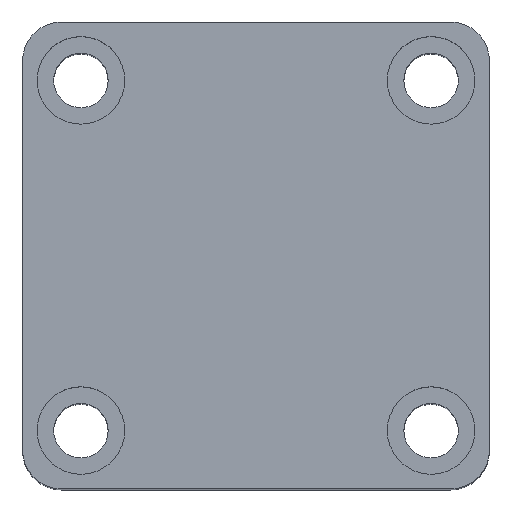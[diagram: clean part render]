
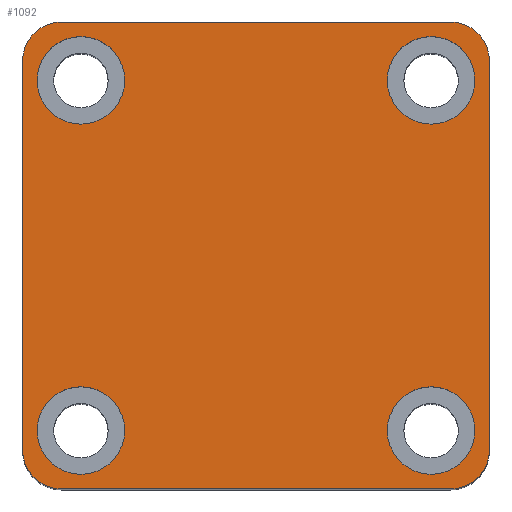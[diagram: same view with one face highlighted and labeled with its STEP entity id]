
A CAD part, top view. The second image highlights one B-rep face of the part: STEP entity #1092.
In plain terms, the highlighted planar face has unit normal (0, 0, 1).
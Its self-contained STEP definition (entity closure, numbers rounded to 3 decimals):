
#24 = CIRCLE ( 'NONE', #937, 4. ) ;
#25 = CIRCLE ( 'NONE', #940, 4. ) ;
#27 = CIRCLE ( 'NONE', #941, 4. ) ;
#29 = CIRCLE ( 'NONE', #942, 4. ) ;
#30 = CIRCLE ( 'NONE', #943, 4.5 ) ;
#31 = CIRCLE ( 'NONE', #944, 4.5 ) ;
#34 = CIRCLE ( 'NONE', #947, 4.5 ) ;
#37 = CIRCLE ( 'NONE', #946, 4.5 ) ;
#40 = VECTOR ( 'NONE', #1325, 1000. ) ;
#43 = LINE ( 'NONE', #1327, #40 ) ;
#46 = VECTOR ( 'NONE', #1334, 1000. ) ;
#49 = LINE ( 'NONE', #1335, #46 ) ;
#50 = VECTOR ( 'NONE', #1347, 1000. ) ;
#56 = LINE ( 'NONE', #1343, #50 ) ;
#69 = VECTOR ( 'NONE', #1389, 1000. ) ;
#74 = LINE ( 'NONE', #1382, #69 ) ;
#419 = ORIENTED_EDGE ( 'NONE', *, *, #1042, .F. ) ;
#421 = ORIENTED_EDGE ( 'NONE', *, *, #2647, .F. ) ;
#423 = ORIENTED_EDGE ( 'NONE', *, *, #1043, .F. ) ;
#424 = ORIENTED_EDGE ( 'NONE', *, *, #2651, .F. ) ;
#425 = ORIENTED_EDGE ( 'NONE', *, *, #1045, .F. ) ;
#427 = ORIENTED_EDGE ( 'NONE', *, *, #2656, .F. ) ;
#428 = ORIENTED_EDGE ( 'NONE', *, *, #1046, .F. ) ;
#430 = ORIENTED_EDGE ( 'NONE', *, *, #2660, .F. ) ;
#432 = ORIENTED_EDGE ( 'NONE', *, *, #1032, .T. ) ;
#434 = ORIENTED_EDGE ( 'NONE', *, *, #1047, .T. ) ;
#436 = ORIENTED_EDGE ( 'NONE', *, *, #1034, .T. ) ;
#438 = ORIENTED_EDGE ( 'NONE', *, *, #1048, .T. ) ;
#440 = ORIENTED_EDGE ( 'NONE', *, *, #1037, .T. ) ;
#442 = ORIENTED_EDGE ( 'NONE', *, *, #1050, .T. ) ;
#444 = ORIENTED_EDGE ( 'NONE', *, *, #1020, .T. ) ;
#446 = ORIENTED_EDGE ( 'NONE', *, *, #1053, .T. ) ;
#535 = CIRCLE ( 'NONE', #1686, 4.5 ) ;
#539 = CIRCLE ( 'NONE', #1683, 4.5 ) ;
#565 = CIRCLE ( 'NONE', #1691, 4.5 ) ;
#584 = CIRCLE ( 'NONE', #1693, 4.5 ) ;
#666 = EDGE_LOOP ( 'NONE', ( #423, #424 ) ) ;
#668 = EDGE_LOOP ( 'NONE', ( #428, #430 ) ) ;
#669 = EDGE_LOOP ( 'NONE', ( #432, #434, #436, #438, #440, #442, #444, #446 ) ) ;
#672 = EDGE_LOOP ( 'NONE', ( #419, #421 ) ) ;
#673 = EDGE_LOOP ( 'NONE', ( #425, #427 ) ) ;
#774 = VERTEX_POINT ( 'NONE', #1443 ) ;
#796 = VERTEX_POINT ( 'NONE', #1332 ) ;
#798 = VERTEX_POINT ( 'NONE', #1326 ) ;
#810 = VERTEX_POINT ( 'NONE', #1284 ) ;
#819 = VERTEX_POINT ( 'NONE', #1258 ) ;
#820 = VERTEX_POINT ( 'NONE', #1269 ) ;
#821 = VERTEX_POINT ( 'NONE', #1256 ) ;
#834 = VERTEX_POINT ( 'NONE', #1211 ) ;
#839 = VERTEX_POINT ( 'NONE', #1201 ) ;
#856 = VERTEX_POINT ( 'NONE', #1158 ) ;
#868 = VERTEX_POINT ( 'NONE', #1548 ) ;
#869 = VERTEX_POINT ( 'NONE', #1547 ) ;
#870 = VERTEX_POINT ( 'NONE', #1546 ) ;
#872 = VERTEX_POINT ( 'NONE', #1544 ) ;
#878 = VERTEX_POINT ( 'NONE', #1538 ) ;
#881 = VERTEX_POINT ( 'NONE', #1535 ) ;
#937 = AXIS2_PLACEMENT_3D ( 'NONE', #1254, #1253, #1252 ) ;
#940 = AXIS2_PLACEMENT_3D ( 'NONE', #1268, #1267, #1266 ) ;
#941 = AXIS2_PLACEMENT_3D ( 'NONE', #1285, #1283, #1282 ) ;
#942 = AXIS2_PLACEMENT_3D ( 'NONE', #1291, #1290, #1289 ) ;
#943 = AXIS2_PLACEMENT_3D ( 'NONE', #1295, #1294, #1293 ) ;
#944 = AXIS2_PLACEMENT_3D ( 'NONE', #1299, #1298, #1297 ) ;
#946 = AXIS2_PLACEMENT_3D ( 'NONE', #1307, #1306, #1305 ) ;
#947 = AXIS2_PLACEMENT_3D ( 'NONE', #1312, #1311, #1309 ) ;
#1016 = AXIS2_PLACEMENT_3D ( 'NONE', #2427, #2383, #2413 ) ;
#1020 = EDGE_CURVE ( 'NONE', #881, #810, #74, .T. ) ;
#1032 = EDGE_CURVE ( 'NONE', #820, #819, #56, .T. ) ;
#1034 = EDGE_CURVE ( 'NONE', #868, #798, #49, .T. ) ;
#1037 = EDGE_CURVE ( 'NONE', #870, #839, #43, .T. ) ;
#1042 = EDGE_CURVE ( 'NONE', #872, #869, #34, .T. ) ;
#1043 = EDGE_CURVE ( 'NONE', #774, #821, #37, .T. ) ;
#1045 = EDGE_CURVE ( 'NONE', #878, #834, #31, .T. ) ;
#1046 = EDGE_CURVE ( 'NONE', #856, #796, #30, .T. ) ;
#1047 = EDGE_CURVE ( 'NONE', #819, #868, #29, .T. ) ;
#1048 = EDGE_CURVE ( 'NONE', #798, #870, #27, .T. ) ;
#1050 = EDGE_CURVE ( 'NONE', #839, #881, #25, .T. ) ;
#1053 = EDGE_CURVE ( 'NONE', #810, #820, #24, .T. ) ;
#1092 = ADVANCED_FACE ( 'NONE', ( #1980, #1969, #1973, #1970, #1977 ), #2414, .T. ) ;
#1158 = CARTESIAN_POINT ( 'NONE',  ( 22.5, -18., 65. ) ) ;
#1201 = CARTESIAN_POINT ( 'NONE',  ( 20., -24., 65. ) ) ;
#1211 = CARTESIAN_POINT ( 'NONE',  ( -22.5, -18., 65. ) ) ;
#1252 = DIRECTION ( 'NONE',  ( 1., 0., 0. ) ) ;
#1253 = DIRECTION ( 'NONE',  ( 0., 0., 1. ) ) ;
#1254 = CARTESIAN_POINT ( 'NONE',  ( 20., 20., 65. ) ) ;
#1256 = CARTESIAN_POINT ( 'NONE',  ( 13.5, 18., 65. ) ) ;
#1258 = CARTESIAN_POINT ( 'NONE',  ( -20., 24., 65. ) ) ;
#1266 = DIRECTION ( 'NONE',  ( 1., 0., 0. ) ) ;
#1267 = DIRECTION ( 'NONE',  ( 0., 0., 1. ) ) ;
#1268 = CARTESIAN_POINT ( 'NONE',  ( 20., -20., 65. ) ) ;
#1269 = CARTESIAN_POINT ( 'NONE',  ( 20., 24., 65. ) ) ;
#1282 = DIRECTION ( 'NONE',  ( 1., 0., 0. ) ) ;
#1283 = DIRECTION ( 'NONE',  ( 0., 0., 1. ) ) ;
#1284 = CARTESIAN_POINT ( 'NONE',  ( 24., 20., 65. ) ) ;
#1285 = CARTESIAN_POINT ( 'NONE',  ( -20., -20., 65. ) ) ;
#1289 = DIRECTION ( 'NONE',  ( 1., 0., 0. ) ) ;
#1290 = DIRECTION ( 'NONE',  ( 0., 0., 1. ) ) ;
#1291 = CARTESIAN_POINT ( 'NONE',  ( -20., 20., 65. ) ) ;
#1293 = DIRECTION ( 'NONE',  ( 1., 0., 0. ) ) ;
#1294 = DIRECTION ( 'NONE',  ( 0., 0., 1. ) ) ;
#1295 = CARTESIAN_POINT ( 'NONE',  ( 18., -18., 65. ) ) ;
#1297 = DIRECTION ( 'NONE',  ( 1., 0., 0. ) ) ;
#1298 = DIRECTION ( 'NONE',  ( 0., 0., 1. ) ) ;
#1299 = CARTESIAN_POINT ( 'NONE',  ( -18., -18., 65. ) ) ;
#1305 = DIRECTION ( 'NONE',  ( 1., 0., 0. ) ) ;
#1306 = DIRECTION ( 'NONE',  ( 0., 0., 1. ) ) ;
#1307 = CARTESIAN_POINT ( 'NONE',  ( 18., 18., 65. ) ) ;
#1309 = DIRECTION ( 'NONE',  ( 1., 0., 0. ) ) ;
#1311 = DIRECTION ( 'NONE',  ( 0., 0., 1. ) ) ;
#1312 = CARTESIAN_POINT ( 'NONE',  ( -18., 18., 65. ) ) ;
#1325 = DIRECTION ( 'NONE',  ( 1., 0., 0. ) ) ;
#1326 = CARTESIAN_POINT ( 'NONE',  ( -24., -20., 65. ) ) ;
#1327 = CARTESIAN_POINT ( 'NONE',  ( -24., -24., 65. ) ) ;
#1332 = CARTESIAN_POINT ( 'NONE',  ( 13.5, -18., 65. ) ) ;
#1334 = DIRECTION ( 'NONE',  ( 0., -1., 0. ) ) ;
#1335 = CARTESIAN_POINT ( 'NONE',  ( -24., 24., 65. ) ) ;
#1343 = CARTESIAN_POINT ( 'NONE',  ( -24., 24., 65. ) ) ;
#1347 = DIRECTION ( 'NONE',  ( -1., 0., 0. ) ) ;
#1382 = CARTESIAN_POINT ( 'NONE',  ( 24., 24., 65. ) ) ;
#1389 = DIRECTION ( 'NONE',  ( 0., 1., 0. ) ) ;
#1443 = CARTESIAN_POINT ( 'NONE',  ( 22.5, 18., 65. ) ) ;
#1535 = CARTESIAN_POINT ( 'NONE',  ( 24., -20., 65. ) ) ;
#1538 = CARTESIAN_POINT ( 'NONE',  ( -13.5, -18., 65. ) ) ;
#1544 = CARTESIAN_POINT ( 'NONE',  ( -13.5, 18., 65. ) ) ;
#1546 = CARTESIAN_POINT ( 'NONE',  ( -20., -24., 65. ) ) ;
#1547 = CARTESIAN_POINT ( 'NONE',  ( -22.5, 18., 65. ) ) ;
#1548 = CARTESIAN_POINT ( 'NONE',  ( -24., 20., 65. ) ) ;
#1683 = AXIS2_PLACEMENT_3D ( 'NONE', #2147, #2145, #2144 ) ;
#1686 = AXIS2_PLACEMENT_3D ( 'NONE', #2167, #2166, #2164 ) ;
#1691 = AXIS2_PLACEMENT_3D ( 'NONE', #2192, #2191, #2190 ) ;
#1693 = AXIS2_PLACEMENT_3D ( 'NONE', #2208, #2207, #2206 ) ;
#1969 = FACE_BOUND ( 'NONE', #666, .T. ) ;
#1970 = FACE_BOUND ( 'NONE', #668, .T. ) ;
#1973 = FACE_BOUND ( 'NONE', #673, .T. ) ;
#1977 = FACE_OUTER_BOUND ( 'NONE', #669, .T. ) ;
#1980 = FACE_BOUND ( 'NONE', #672, .T. ) ;
#2144 = DIRECTION ( 'NONE',  ( 1., 0., 0. ) ) ;
#2145 = DIRECTION ( 'NONE',  ( 0., 0., 1. ) ) ;
#2147 = CARTESIAN_POINT ( 'NONE',  ( 18., -18., 65. ) ) ;
#2164 = DIRECTION ( 'NONE',  ( 1., 0., 0. ) ) ;
#2166 = DIRECTION ( 'NONE',  ( 0., 0., 1. ) ) ;
#2167 = CARTESIAN_POINT ( 'NONE',  ( -18., -18., 65. ) ) ;
#2190 = DIRECTION ( 'NONE',  ( 1., 0., 0. ) ) ;
#2191 = DIRECTION ( 'NONE',  ( 0., 0., 1. ) ) ;
#2192 = CARTESIAN_POINT ( 'NONE',  ( 18., 18., 65. ) ) ;
#2206 = DIRECTION ( 'NONE',  ( 1., 0., 0. ) ) ;
#2207 = DIRECTION ( 'NONE',  ( 0., 0., 1. ) ) ;
#2208 = CARTESIAN_POINT ( 'NONE',  ( -18., 18., 65. ) ) ;
#2383 = DIRECTION ( 'NONE',  ( 0., 0., 1. ) ) ;
#2413 = DIRECTION ( 'NONE',  ( 1., 0., 0. ) ) ;
#2414 = PLANE ( 'NONE',  #1016 ) ;
#2427 = CARTESIAN_POINT ( 'NONE',  ( 0., 0., 65. ) ) ;
#2647 = EDGE_CURVE ( 'NONE', #869, #872, #584, .T. ) ;
#2651 = EDGE_CURVE ( 'NONE', #821, #774, #565, .T. ) ;
#2656 = EDGE_CURVE ( 'NONE', #834, #878, #535, .T. ) ;
#2660 = EDGE_CURVE ( 'NONE', #796, #856, #539, .T. ) ;
